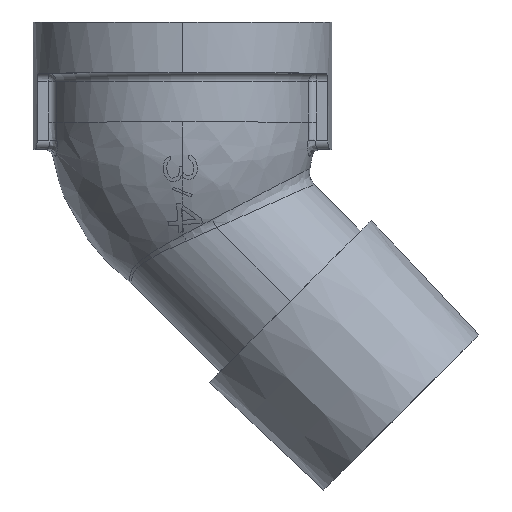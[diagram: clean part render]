
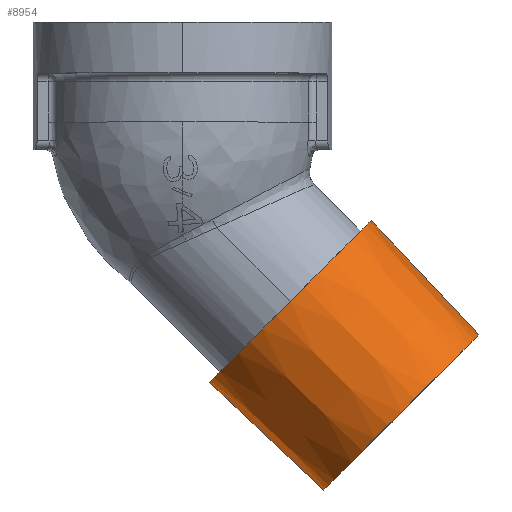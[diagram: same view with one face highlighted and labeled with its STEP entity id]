
A CAD part, top view. The second image highlights one B-rep face of the part: STEP entity #8954.
In plain terms, the highlighted conical face has half-angle 1.8 degrees and reference radius 13.211 mm.
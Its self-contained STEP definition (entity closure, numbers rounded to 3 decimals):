
#3120=DIRECTION('',(-0.685,0.729,0.));
#3121=VECTOR('',#3120,18.509);
#3122=CARTESIAN_POINT('',(34.933,-36.864,0.));
#3123=LINE('',#3122,#3121);
#3129=DIRECTION('',(0.729,-0.685,0.));
#3130=VECTOR('',#3129,18.509);
#3131=CARTESIAN_POINT('',(3.168,-42.466,0.));
#3132=LINE('',#3131,#3130);
#3133=CARTESIAN_POINT('',(12.715,-32.919,0.));
#3134=DIRECTION('',(-0.707,0.707,0.));
#3135=DIRECTION('',(-0.707,-0.707,0.));
#3136=AXIS2_PLACEMENT_3D('',#3133,#3134,#3135);
#3143=CARTESIAN_POINT('',(25.796,-46.,0.));
#3144=DIRECTION('',(-0.707,0.707,0.));
#3145=DIRECTION('',(-0.707,-0.707,0.));
#3146=AXIS2_PLACEMENT_3D('',#3143,#3144,#3145);
#3323=CARTESIAN_POINT('',(16.66,-55.136,0.));
#3324=CARTESIAN_POINT('',(34.933,-36.864,0.));
#3325=VERTEX_POINT('',#3323);
#3326=VERTEX_POINT('',#3324);
#3327=CARTESIAN_POINT('',(3.168,-42.466,0.));
#3328=CARTESIAN_POINT('',(22.262,-23.371,0.));
#3329=VERTEX_POINT('',#3327);
#3330=VERTEX_POINT('',#3328);
#8942=CARTESIAN_POINT('',(19.256,-39.459,0.));
#8943=DIRECTION('',(-0.707,0.707,0.));
#8944=DIRECTION('',(0.707,0.707,0.));
#8945=AXIS2_PLACEMENT_3D('',#8942,#8943,#8944);
#8946=CONICAL_SURFACE('',#8945,13.211,1.8);
#8947=ORIENTED_EDGE('',*,*,#8935,.F.);
#8948=ORIENTED_EDGE('',*,*,#8917,.T.);
#8949=ORIENTED_EDGE('',*,*,#8932,.F.);
#8951=ORIENTED_EDGE('',*,*,#8950,.F.);
#8952=EDGE_LOOP('',(#8947,#8948,#8949,#8951));
#8953=FACE_OUTER_BOUND('',#8952,.F.);
#8954=ADVANCED_FACE('',(#8953),#8946,.T.);
#3137=CIRCLE('',#3136,13.502);
#3147=CIRCLE('',#3146,12.921);
#8917=EDGE_CURVE('',#3329,#3330,#3137,.T.);
#8932=EDGE_CURVE('',#3326,#3330,#3123,.T.);
#8935=EDGE_CURVE('',#3329,#3325,#3132,.T.);
#8950=EDGE_CURVE('',#3325,#3326,#3147,.T.);
